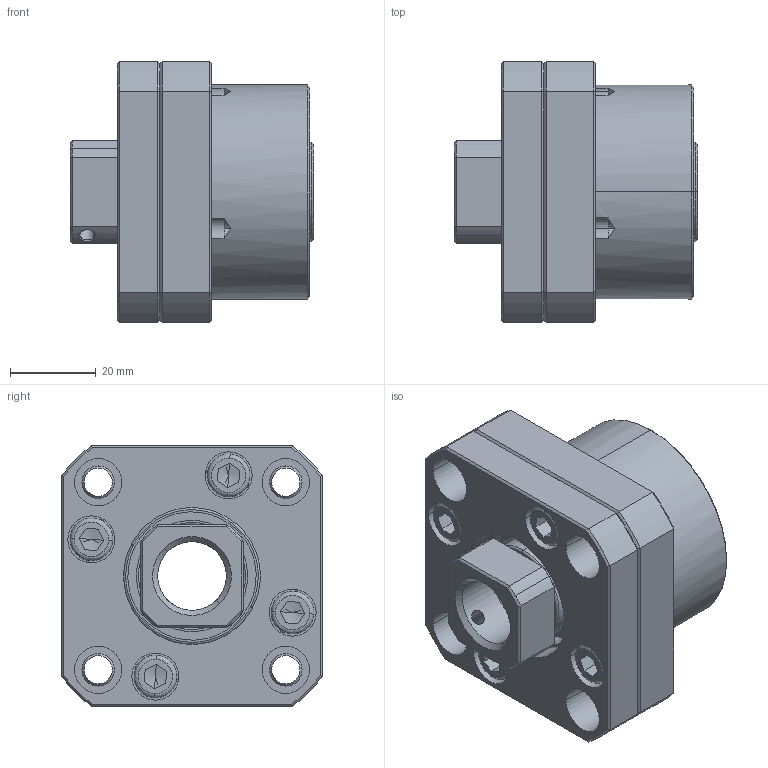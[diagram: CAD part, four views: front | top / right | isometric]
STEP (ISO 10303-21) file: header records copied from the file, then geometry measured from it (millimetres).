
FILE_DESCRIPTION (( 'STEP AP203' ), '1' );
FILE_NAME ('FK17²Õ¦XA.STEP', '2021-09-29T01:24:26', ( '' ), ( '' ), 'SwSTEP 2.0', 'SolidWorks 2018', '' );
FILE_SCHEMA (( 'CONFIG_CONTROL_DESIGN' ));
Length unit declared in the file: millimetre
Products named in the file (1): FK17組合A
Bounding box: 57 x 61 x 61 mm (x, y, z)
Surface area: 28193.1 mm2 (no closed solid volume)
Topology: 0 solids, 12 shells, 229 faces, 587 edges, 361 vertices
Faces by surface type: cylinder 77, plane 72, cone 54, torus 14, bspline 12
Entity records: 7503 total; most frequent: CARTESIAN_POINT 2034, DIRECTION 1162, ORIENTED_EDGE 1043, EDGE_CURVE 579, AXIS2_PLACEMENT_3D 471, VERTEX_POINT 361, EDGE_LOOP 260, CIRCLE 253
